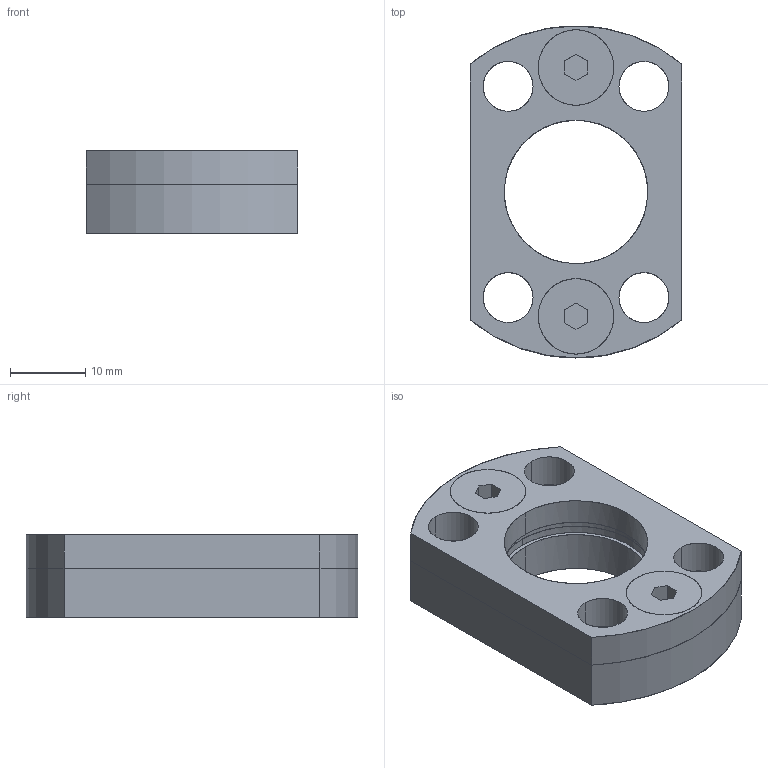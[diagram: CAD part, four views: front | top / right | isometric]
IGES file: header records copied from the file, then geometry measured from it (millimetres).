
Global section: file name: E:\UnigraphicsGraphicData\MISUMI_PRESS-PARTS\IGES\3d_fm-19_03754_r00.igs; native system: NX V5.0; preprocessor: UGS NX IGES V5.0; author: MISUMI; date: 20110105.160643; units: millimetre
Bounding box: 28 x 44 x 11 mm (x, y, z)
Surface area: 6709.8 mm2 (no closed solid volume)
Topology: 0 solids, 0 shells, 80 faces, 608 edges, 608 vertices
Faces by surface type: bspline 80
